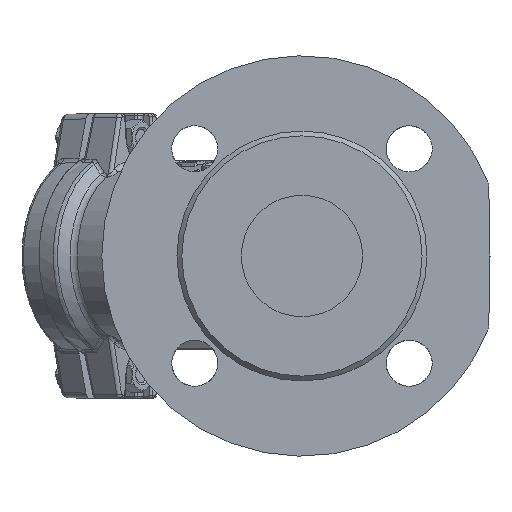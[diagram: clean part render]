
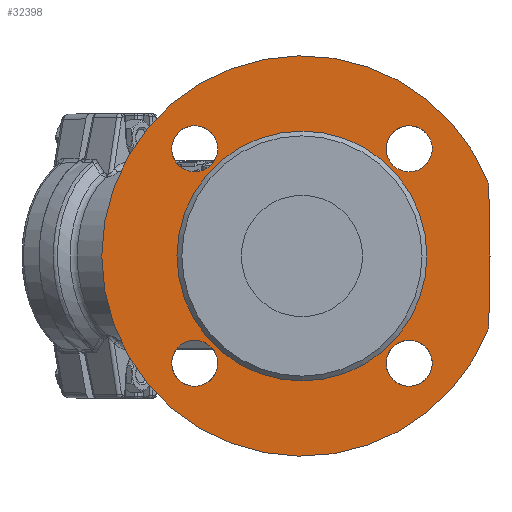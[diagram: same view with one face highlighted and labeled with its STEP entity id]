
A CAD part, left-side view. The second image highlights one B-rep face of the part: STEP entity #32398.
In plain terms, the highlighted planar face has unit normal (-1, 0, 0).
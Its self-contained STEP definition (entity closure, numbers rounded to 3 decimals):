
#779 = EDGE_LOOP ( 'NONE', ( #4466 ) ) ;
#2234 = CIRCLE ( 'NONE', #23400, 5. ) ;
#2335 = CARTESIAN_POINT ( 'NONE',  ( 59.415, -37.15, 28.766 ) ) ;
#2524 = DIRECTION ( 'NONE',  ( -1., 0., 0. ) ) ;
#3911 = EDGE_CURVE ( 'NONE', #20528, #26368, #38489, .T. ) ;
#4148 = DIRECTION ( 'NONE',  ( 0., -1., 0. ) ) ;
#4466 = ORIENTED_EDGE ( 'NONE', *, *, #25863, .T. ) ;
#5665 = ORIENTED_EDGE ( 'NONE', *, *, #9472, .T. ) ;
#6141 = FACE_BOUND ( 'NONE', #16140, .T. ) ;
#6422 = VERTEX_POINT ( 'NONE', #54799 ) ;
#7389 = DIRECTION ( 'NONE',  ( 1., 0., 0. ) ) ;
#7412 = EDGE_CURVE ( 'NONE', #6422, #42178, #37833, .T. ) ;
#8211 = EDGE_CURVE ( 'NONE', #38582, #38582, #11853, .T. ) ;
#8845 = DIRECTION ( 'NONE',  ( -1., 0., 0. ) ) ;
#9472 = EDGE_CURVE ( 'NONE', #6422, #54809, #30813, .T. ) ;
#9807 = CARTESIAN_POINT ( 'NONE',  ( 59.415, -37.645, 0.436 ) ) ;
#10872 = VECTOR ( 'NONE', #22247, 1000. ) ;
#11022 = DIRECTION ( 'NONE',  ( 0., -1., 0. ) ) ;
#11265 = EDGE_LOOP ( 'NONE', ( #13392 ) ) ;
#11617 = ORIENTED_EDGE ( 'NONE', *, *, #7412, .F. ) ;
#11832 = CARTESIAN_POINT ( 'NONE',  ( 59.415, -4.347, 44.194 ) ) ;
#11853 = CIRCLE ( 'NONE', #42810, 9.5 ) ;
#13392 = ORIENTED_EDGE ( 'NONE', *, *, #37957, .F. ) ;
#13764 = AXIS2_PLACEMENT_3D ( 'NONE', #17788, #52170, #25512 ) ;
#13872 = CARTESIAN_POINT ( 'NONE',  ( 59.415, 74.542, 44.194 ) ) ;
#14197 = DIRECTION ( 'NONE',  ( 0., 0.017, 1. ) ) ;
#14341 = CIRCLE ( 'NONE', #23179, 9.5 ) ;
#14478 = AXIS2_PLACEMENT_3D ( 'NONE', #37864, #24776, #53950 ) ;
#16140 = EDGE_LOOP ( 'NONE', ( #38393 ) ) ;
#16465 = CIRCLE ( 'NONE', #13764, 9.5 ) ;
#16946 = CARTESIAN_POINT ( 'NONE',  ( 59.415, -13.847, 44.194 ) ) ;
#17788 = CARTESIAN_POINT ( 'NONE',  ( 59.415, 84.042, -44.194 ) ) ;
#17860 = AXIS2_PLACEMENT_3D ( 'NONE', #44159, #35278, #26936 ) ;
#18314 = VERTEX_POINT ( 'NONE', #22978 ) ;
#18566 = VERTEX_POINT ( 'NONE', #47174 ) ;
#18567 = FACE_BOUND ( 'NONE', #20157, .T. ) ;
#19009 = DIRECTION ( 'NONE',  ( 1., 0., 0. ) ) ;
#19133 = ORIENTED_EDGE ( 'NONE', *, *, #8211, .T. ) ;
#19403 = ORIENTED_EDGE ( 'NONE', *, *, #25241, .F. ) ;
#20102 = CARTESIAN_POINT ( 'NONE',  ( 59.415, -32.151, -28.678 ) ) ;
#20157 = EDGE_LOOP ( 'NONE', ( #35422 ) ) ;
#20320 = AXIS2_PLACEMENT_3D ( 'NONE', #53496, #2524, #44895 ) ;
#20528 = VERTEX_POINT ( 'NONE', #36357 ) ;
#20725 = DIRECTION ( 'NONE',  ( -1., 0., 0. ) ) ;
#21030 = CARTESIAN_POINT ( 'NONE',  ( 59.415, -4.347, -44.194 ) ) ;
#21415 = EDGE_CURVE ( 'NONE', #54809, #20528, #2234, .T. ) ;
#21718 = CARTESIAN_POINT ( 'NONE',  ( 59.415, -36.796, -30.528 ) ) ;
#21883 = VERTEX_POINT ( 'NONE', #34915 ) ;
#22247 = DIRECTION ( 'NONE',  ( 0., 0.017, -1. ) ) ;
#22378 = EDGE_LOOP ( 'NONE', ( #5665, #28694, #41090, #19403, #11617 ) ) ;
#22978 = CARTESIAN_POINT ( 'NONE',  ( 59.415, -11.653, 0. ) ) ;
#22979 = FACE_BOUND ( 'NONE', #779, .T. ) ;
#23179 = AXIS2_PLACEMENT_3D ( 'NONE', #21030, #50449, #46561 ) ;
#23400 = AXIS2_PLACEMENT_3D ( 'NONE', #38208, #8845, #25667 ) ;
#24002 = VECTOR ( 'NONE', #14197, 1000. ) ;
#24776 = DIRECTION ( 'NONE',  ( -1., 0., 0. ) ) ;
#25241 = EDGE_CURVE ( 'NONE', #42178, #26368, #51808, .T. ) ;
#25512 = DIRECTION ( 'NONE',  ( 0., -1., 0. ) ) ;
#25667 = DIRECTION ( 'NONE',  ( 0., -1., 0. ) ) ;
#25863 = EDGE_CURVE ( 'NONE', #18566, #18566, #16465, .T. ) ;
#26368 = VERTEX_POINT ( 'NONE', #21718 ) ;
#26936 = DIRECTION ( 'NONE',  ( 0., -1., 0. ) ) ;
#26997 = AXIS2_PLACEMENT_3D ( 'NONE', #20102, #19009, #32561 ) ;
#27147 = PLANE ( 'NONE',  #20320 ) ;
#27955 = FACE_BOUND ( 'NONE', #54390, .T. ) ;
#28044 = CARTESIAN_POINT ( 'NONE',  ( 59.415, -37.15, -28.766 ) ) ;
#28694 = ORIENTED_EDGE ( 'NONE', *, *, #21415, .T. ) ;
#29315 = EDGE_CURVE ( 'NONE', #18314, #18314, #40141, .T. ) ;
#30813 = LINE ( 'NONE', #9807, #24002 ) ;
#32398 = ADVANCED_FACE ( 'NONE', ( #6141, #18567, #27955, #40204, #22979, #52680 ), #27147, .T. ) ;
#32561 = DIRECTION ( 'NONE',  ( 0., -1., 0. ) ) ;
#34915 = CARTESIAN_POINT ( 'NONE',  ( 59.415, -13.847, -44.194 ) ) ;
#35278 = DIRECTION ( 'NONE',  ( -1., 0., 0. ) ) ;
#35422 = ORIENTED_EDGE ( 'NONE', *, *, #37568, .F. ) ;
#36357 = CARTESIAN_POINT ( 'NONE',  ( 59.415, -36.796, 30.528 ) ) ;
#37568 = EDGE_CURVE ( 'NONE', #43807, #43807, #53244, .T. ) ;
#37833 = LINE ( 'NONE', #38936, #10872 ) ;
#37864 = CARTESIAN_POINT ( 'NONE',  ( 59.415, 39.847, 0. ) ) ;
#37957 = EDGE_CURVE ( 'NONE', #21883, #21883, #14341, .T. ) ;
#38208 = CARTESIAN_POINT ( 'NONE',  ( 59.415, -32.151, 28.678 ) ) ;
#38393 = ORIENTED_EDGE ( 'NONE', *, *, #29315, .F. ) ;
#38489 = CIRCLE ( 'NONE', #49089, 82.5 ) ;
#38582 = VERTEX_POINT ( 'NONE', #16946 ) ;
#38936 = CARTESIAN_POINT ( 'NONE',  ( 59.415, -37.645, -0.436 ) ) ;
#40141 = CIRCLE ( 'NONE', #14478, 51.5 ) ;
#40204 = FACE_OUTER_BOUND ( 'NONE', #22378, .T. ) ;
#41090 = ORIENTED_EDGE ( 'NONE', *, *, #3911, .T. ) ;
#42178 = VERTEX_POINT ( 'NONE', #28044 ) ;
#42810 = AXIS2_PLACEMENT_3D ( 'NONE', #11832, #7389, #11022 ) ;
#43807 = VERTEX_POINT ( 'NONE', #13872 ) ;
#44159 = CARTESIAN_POINT ( 'NONE',  ( 59.415, 84.042, 44.194 ) ) ;
#44895 = DIRECTION ( 'NONE',  ( 0., 1., 0. ) ) ;
#46262 = CARTESIAN_POINT ( 'NONE',  ( 59.415, 39.847, 0. ) ) ;
#46561 = DIRECTION ( 'NONE',  ( 0., -1., 0. ) ) ;
#47174 = CARTESIAN_POINT ( 'NONE',  ( 59.415, 74.542, -44.194 ) ) ;
#49089 = AXIS2_PLACEMENT_3D ( 'NONE', #46262, #20725, #4148 ) ;
#50449 = DIRECTION ( 'NONE',  ( -1., 0., 0. ) ) ;
#51808 = CIRCLE ( 'NONE', #26997, 5. ) ;
#52170 = DIRECTION ( 'NONE',  ( 1., 0., 0. ) ) ;
#52680 = FACE_BOUND ( 'NONE', #11265, .T. ) ;
#53244 = CIRCLE ( 'NONE', #17860, 9.5 ) ;
#53496 = CARTESIAN_POINT ( 'NONE',  ( 59.415, -12.653, 0. ) ) ;
#53950 = DIRECTION ( 'NONE',  ( 0., -1., 0. ) ) ;
#54390 = EDGE_LOOP ( 'NONE', ( #19133 ) ) ;
#54799 = CARTESIAN_POINT ( 'NONE',  ( 59.415, -37.653, 0. ) ) ;
#54809 = VERTEX_POINT ( 'NONE', #2335 ) ;
